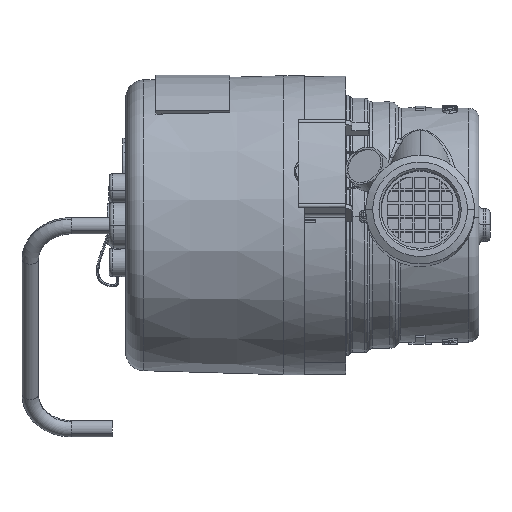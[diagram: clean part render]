
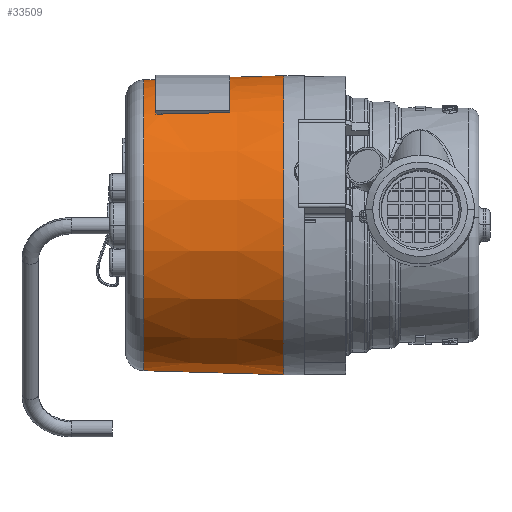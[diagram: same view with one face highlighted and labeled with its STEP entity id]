
A CAD part, left-side view. The second image highlights one B-rep face of the part: STEP entity #33509.
In plain terms, the highlighted conical face has half-angle 1.637 degrees and reference radius 36.35 mm.
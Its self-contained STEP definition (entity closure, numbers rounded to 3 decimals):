
#22 = VERTEX_POINT ( 'NONE', #4137 ) ;
#2388 = VECTOR ( 'NONE', #27020, 1000. ) ;
#3134 = DIRECTION ( 'NONE',  ( 0., -1., 0. ) ) ;
#4137 = CARTESIAN_POINT ( 'NONE',  ( 3.815, 58.008, 35.5 ) ) ;
#4493 = CARTESIAN_POINT ( 'NONE',  ( 3.815, 28.275, -36.35 ) ) ;
#4907 = AXIS2_PLACEMENT_3D ( 'NONE', #9264, #33953, #39407 ) ;
#7898 = EDGE_CURVE ( 'NONE', #21775, #28817, #31181, .T. ) ;
#8162 = LINE ( 'NONE', #14337, #56830 ) ;
#9035 = AXIS2_PLACEMENT_3D ( 'NONE', #45655, #40812, #66551 ) ;
#9264 = CARTESIAN_POINT ( 'NONE',  ( 3.815, 58.008, 0. ) ) ;
#9317 = VERTEX_POINT ( 'NONE', #18746 ) ;
#13216 = ORIENTED_EDGE ( 'NONE', *, *, #26009, .F. ) ;
#13569 = ORIENTED_EDGE ( 'NONE', *, *, #45049, .T. ) ;
#14337 = CARTESIAN_POINT ( 'NONE',  ( 3.815, 28.275, 36.35 ) ) ;
#16858 = DIRECTION ( 'NONE',  ( 0., -1., 0.029 ) ) ;
#18746 = CARTESIAN_POINT ( 'NONE',  ( 3.815, 28.275, 36.35 ) ) ;
#19191 = CIRCLE ( 'NONE', #48807, 36.35 ) ;
#19208 = CARTESIAN_POINT ( 'NONE',  ( 3.815, 28.275, 0. ) ) ;
#21775 = VERTEX_POINT ( 'NONE', #38118 ) ;
#21995 = VERTEX_POINT ( 'NONE', #4493 ) ;
#22824 = DIRECTION ( 'NONE',  ( 0., -1., 0. ) ) ;
#22979 = VECTOR ( 'NONE', #52136, 1000. ) ;
#24590 = VERTEX_POINT ( 'NONE', #41919 ) ;
#24658 = AXIS2_PLACEMENT_3D ( 'NONE', #55589, #3134, #30524 ) ;
#26009 = EDGE_CURVE ( 'NONE', #37324, #22, #8162, .T. ) ;
#26945 = EDGE_CURVE ( 'NONE', #37429, #21995, #57223, .T. ) ;
#27020 = DIRECTION ( 'NONE',  ( 0., -1., -0.029 ) ) ;
#28817 = VERTEX_POINT ( 'NONE', #62903 ) ;
#28981 = ORIENTED_EDGE ( 'NONE', *, *, #67035, .T. ) ;
#30182 = CARTESIAN_POINT ( 'NONE',  ( 3.815, 1299.816, 0. ) ) ;
#30405 = ORIENTED_EDGE ( 'NONE', *, *, #65164, .T. ) ;
#30524 = DIRECTION ( 'NONE',  ( 0., 0., 1. ) ) ;
#31181 = LINE ( 'NONE', #30182, #22979 ) ;
#32595 = CARTESIAN_POINT ( 'NONE',  ( 3.815, 28.275, 36.35 ) ) ;
#32801 = EDGE_CURVE ( 'NONE', #9317, #21995, #19191, .T. ) ;
#33509 = ADVANCED_FACE ( 'NONE', ( #45642 ), #48952, .T. ) ;
#33953 = DIRECTION ( 'NONE',  ( 0., 1., 0. ) ) ;
#33991 = DIRECTION ( 'NONE',  ( 0., 0., -1. ) ) ;
#34486 = CIRCLE ( 'NONE', #4907, 35.5 ) ;
#34692 = AXIS2_PLACEMENT_3D ( 'NONE', #40125, #66199, #33991 ) ;
#35212 = DIRECTION ( 'NONE',  ( 0., -1., 0.029 ) ) ;
#35454 = ORIENTED_EDGE ( 'NONE', *, *, #37356, .F. ) ;
#35995 = EDGE_LOOP ( 'NONE', ( #13216, #30405, #39691, #52535, #35454, #13569, #64635, #28981 ) ) ;
#37324 = VERTEX_POINT ( 'NONE', #54873 ) ;
#37356 = EDGE_CURVE ( 'NONE', #24590, #9317, #63781, .T. ) ;
#37429 = VERTEX_POINT ( 'NONE', #54541 ) ;
#38118 = CARTESIAN_POINT ( 'NONE',  ( -19.491, 41.402, 27.405 ) ) ;
#39407 = DIRECTION ( 'NONE',  ( 0., 0., -1. ) ) ;
#39691 = ORIENTED_EDGE ( 'NONE', *, *, #26945, .T. ) ;
#40125 = CARTESIAN_POINT ( 'NONE',  ( 3.815, 28.275, 0. ) ) ;
#40812 = DIRECTION ( 'NONE',  ( 0., -1., 0. ) ) ;
#41919 = CARTESIAN_POINT ( 'NONE',  ( 3.815, 41.402, 35.975 ) ) ;
#42489 = CARTESIAN_POINT ( 'NONE',  ( 3.815, 28.275, -36.35 ) ) ;
#44005 = VECTOR ( 'NONE', #16858, 1000. ) ;
#45049 = EDGE_CURVE ( 'NONE', #24590, #21775, #55331, .T. ) ;
#45642 = FACE_OUTER_BOUND ( 'NONE', #35995, .T. ) ;
#45655 = CARTESIAN_POINT ( 'NONE',  ( 3.815, 62.382, 0. ) ) ;
#48807 = AXIS2_PLACEMENT_3D ( 'NONE', #19208, #22824, #48902 ) ;
#48902 = DIRECTION ( 'NONE',  ( 0., 0., -1. ) ) ;
#48952 = CONICAL_SURFACE ( 'NONE', #34692, 36.35, 0.029 ) ;
#52136 = DIRECTION ( 'NONE',  ( 0.019, 1., -0.022 ) ) ;
#52535 = ORIENTED_EDGE ( 'NONE', *, *, #32801, .F. ) ;
#54541 = CARTESIAN_POINT ( 'NONE',  ( 3.815, 62.382, -35.375 ) ) ;
#54873 = CARTESIAN_POINT ( 'NONE',  ( 3.815, 62.382, 35.375 ) ) ;
#55331 = CIRCLE ( 'NONE', #24658, 35.975 ) ;
#55589 = CARTESIAN_POINT ( 'NONE',  ( 3.815, 41.402, 0. ) ) ;
#56830 = VECTOR ( 'NONE', #35212, 1000. ) ;
#57223 = LINE ( 'NONE', #42489, #2388 ) ;
#62903 = CARTESIAN_POINT ( 'NONE',  ( -19.183, 58.008, 27.043 ) ) ;
#63781 = LINE ( 'NONE', #32595, #44005 ) ;
#64635 = ORIENTED_EDGE ( 'NONE', *, *, #7898, .T. ) ;
#65164 = EDGE_CURVE ( 'NONE', #37324, #37429, #65932, .T. ) ;
#65932 = CIRCLE ( 'NONE', #9035, 35.375 ) ;
#66199 = DIRECTION ( 'NONE',  ( 0., -1., 0. ) ) ;
#66551 = DIRECTION ( 'NONE',  ( 0., 0., -1. ) ) ;
#67035 = EDGE_CURVE ( 'NONE', #28817, #22, #34486, .T. ) ;
